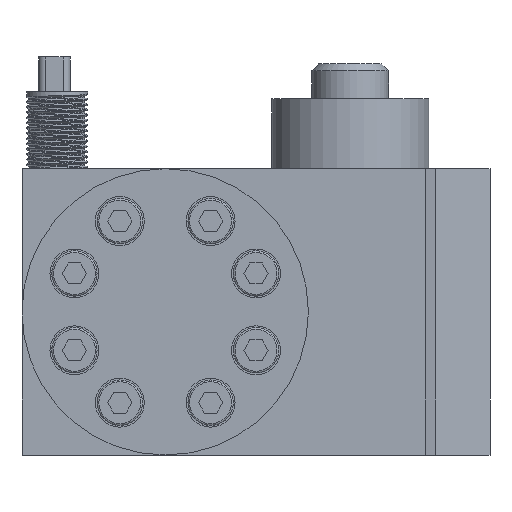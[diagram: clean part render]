
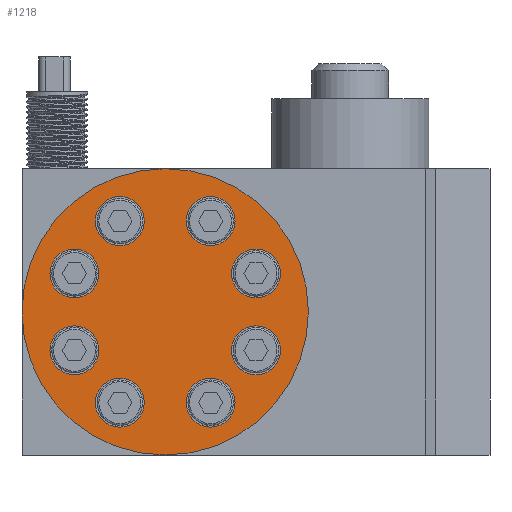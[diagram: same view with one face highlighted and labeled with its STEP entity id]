
A CAD part, left-side view. The second image highlights one B-rep face of the part: STEP entity #1218.
In plain terms, the highlighted planar face has unit normal (-1, 0, 0).
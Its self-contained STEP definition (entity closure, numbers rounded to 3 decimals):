
#1218=ADVANCED_FACE('',(#2306,#2307,#2308,#2309,#2310,#2311,#2312,#2313,
#2314),#1750,.F.);
#1750=PLANE('',#11028);
#2306=FACE_BOUND('',#3146,.T.);
#2307=FACE_BOUND('',#3147,.T.);
#2308=FACE_BOUND('',#3148,.T.);
#2309=FACE_BOUND('',#3149,.T.);
#2310=FACE_BOUND('',#3150,.T.);
#2311=FACE_BOUND('',#3151,.T.);
#2312=FACE_BOUND('',#3152,.T.);
#2313=FACE_BOUND('',#3153,.T.);
#2314=FACE_BOUND('',#3154,.T.);
#3146=EDGE_LOOP('',(#5391));
#3147=EDGE_LOOP('',(#5392));
#3148=EDGE_LOOP('',(#5393));
#3149=EDGE_LOOP('',(#5394));
#3150=EDGE_LOOP('',(#5395));
#3151=EDGE_LOOP('',(#5396));
#3152=EDGE_LOOP('',(#5397));
#3153=EDGE_LOOP('',(#5398));
#3154=EDGE_LOOP('',(#5399));
#4033=CIRCLE('',#11017,41.);
#4035=CIRCLE('',#11020,7.);
#4036=CIRCLE('',#11021,7.);
#4037=CIRCLE('',#11022,7.);
#4038=CIRCLE('',#11023,7.);
#4039=CIRCLE('',#11024,7.);
#4040=CIRCLE('',#11025,7.);
#4041=CIRCLE('',#11026,7.);
#4042=CIRCLE('',#11027,7.);
#5391=ORIENTED_EDGE('',*,*,#8299,.T.);
#5392=ORIENTED_EDGE('',*,*,#8300,.T.);
#5393=ORIENTED_EDGE('',*,*,#8301,.T.);
#5394=ORIENTED_EDGE('',*,*,#8302,.T.);
#5395=ORIENTED_EDGE('',*,*,#8303,.T.);
#5396=ORIENTED_EDGE('',*,*,#8304,.T.);
#5397=ORIENTED_EDGE('',*,*,#8305,.T.);
#5398=ORIENTED_EDGE('',*,*,#8306,.T.);
#5399=ORIENTED_EDGE('',*,*,#8297,.F.);
#7202=VERTEX_POINT('',#15938);
#7204=VERTEX_POINT('',#15943);
#7205=VERTEX_POINT('',#15945);
#7206=VERTEX_POINT('',#15947);
#7207=VERTEX_POINT('',#15949);
#7208=VERTEX_POINT('',#15951);
#7209=VERTEX_POINT('',#15953);
#7210=VERTEX_POINT('',#15955);
#7211=VERTEX_POINT('',#15957);
#8297=EDGE_CURVE('',#7202,#7202,#4033,.T.);
#8299=EDGE_CURVE('',#7204,#7204,#4035,.T.);
#8300=EDGE_CURVE('',#7205,#7205,#4036,.T.);
#8301=EDGE_CURVE('',#7206,#7206,#4037,.T.);
#8302=EDGE_CURVE('',#7207,#7207,#4038,.T.);
#8303=EDGE_CURVE('',#7208,#7208,#4039,.T.);
#8304=EDGE_CURVE('',#7209,#7209,#4040,.T.);
#8305=EDGE_CURVE('',#7210,#7210,#4041,.T.);
#8306=EDGE_CURVE('',#7211,#7211,#4042,.T.);
#11017=AXIS2_PLACEMENT_3D('',#15937,#12961,#12962);
#11020=AXIS2_PLACEMENT_3D('',#15942,#12967,#12968);
#11021=AXIS2_PLACEMENT_3D('',#15944,#12969,#12970);
#11022=AXIS2_PLACEMENT_3D('',#15946,#12971,#12972);
#11023=AXIS2_PLACEMENT_3D('',#15948,#12973,#12974);
#11024=AXIS2_PLACEMENT_3D('',#15950,#12975,#12976);
#11025=AXIS2_PLACEMENT_3D('',#15952,#12977,#12978);
#11026=AXIS2_PLACEMENT_3D('',#15954,#12979,#12980);
#11027=AXIS2_PLACEMENT_3D('',#15956,#12981,#12982);
#11028=AXIS2_PLACEMENT_3D('',#15958,#12983,#12984);
#12961=DIRECTION('',(1.,0.,0.));
#12962=DIRECTION('',(0.,1.,0.));
#12967=DIRECTION('',(1.,0.,0.));
#12968=DIRECTION('',(0.,0.,-1.));
#12969=DIRECTION('',(1.,0.,0.));
#12970=DIRECTION('',(0.,0.,-1.));
#12971=DIRECTION('',(1.,0.,0.));
#12972=DIRECTION('',(0.,0.,-1.));
#12973=DIRECTION('',(1.,0.,0.));
#12974=DIRECTION('',(0.,0.,-1.));
#12975=DIRECTION('',(1.,0.,0.));
#12976=DIRECTION('',(0.,0.,-1.));
#12977=DIRECTION('',(1.,0.,0.));
#12978=DIRECTION('',(0.,0.,-1.));
#12979=DIRECTION('',(1.,0.,0.));
#12980=DIRECTION('',(0.,0.,-1.));
#12981=DIRECTION('',(1.,0.,0.));
#12982=DIRECTION('',(0.,0.,-1.));
#12983=DIRECTION('',(1.,0.,0.));
#12984=DIRECTION('',(0.,0.,-1.));
#15937=CARTESIAN_POINT('',(-92.,47.,41.));
#15938=CARTESIAN_POINT('',(-92.,88.,41.));
#15942=CARTESIAN_POINT('',(-92.,73.,30.));
#15943=CARTESIAN_POINT('',(-92.,73.,23.));
#15944=CARTESIAN_POINT('',(-92.,21.,30.));
#15945=CARTESIAN_POINT('',(-92.,21.,23.));
#15946=CARTESIAN_POINT('',(-92.,21.,52.));
#15947=CARTESIAN_POINT('',(-92.,21.,45.));
#15948=CARTESIAN_POINT('',(-92.,73.,52.));
#15949=CARTESIAN_POINT('',(-92.,73.,45.));
#15950=CARTESIAN_POINT('',(-92.,60.,15.));
#15951=CARTESIAN_POINT('',(-92.,60.,8.));
#15952=CARTESIAN_POINT('',(-92.,34.,15.));
#15953=CARTESIAN_POINT('',(-92.,34.,8.));
#15954=CARTESIAN_POINT('',(-92.,34.,67.));
#15955=CARTESIAN_POINT('',(-92.,34.,60.));
#15956=CARTESIAN_POINT('',(-92.,60.,67.));
#15957=CARTESIAN_POINT('',(-92.,60.,60.));
#15958=CARTESIAN_POINT('',(-92.,47.,41.));
